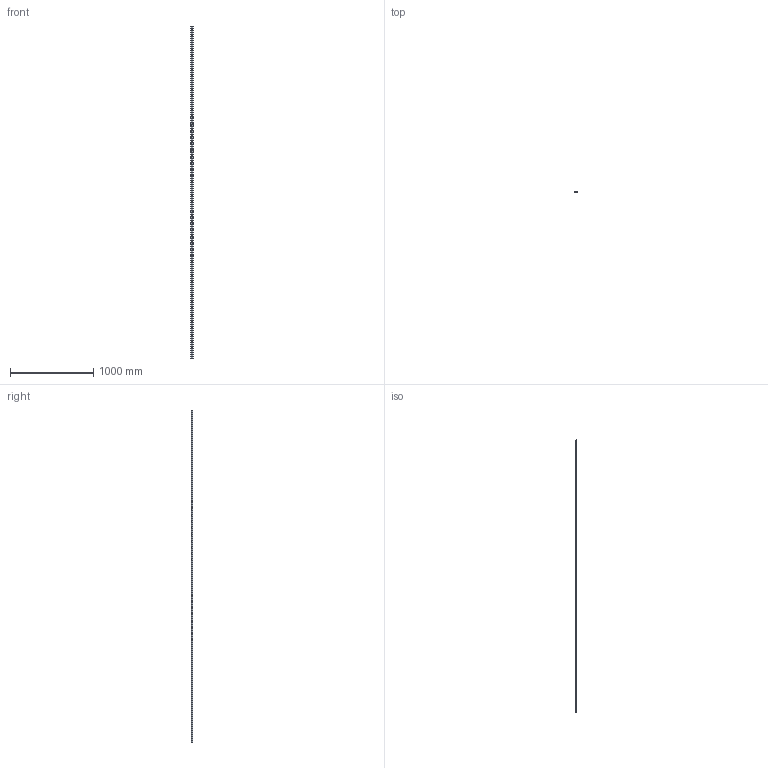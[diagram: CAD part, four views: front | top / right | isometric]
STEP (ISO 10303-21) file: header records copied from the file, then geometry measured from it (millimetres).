
FILE_DESCRIPTION(('STEP AP214'),'1');
FILE_NAME('rail_tex26-4000.stp','2019-03-08T08:29:57',('TraceParts'),('TraceParts S.A.'),'Spatial InterOp 3D',' ',' ');
FILE_SCHEMA(('automotive_design'));
Length unit declared in the file: millimetre
Products named in the file (1): rail_tex26-4000
Bounding box: 26.06 x 14 x 4000 mm (x, y, z)
Volume: 414095.5 mm3; surface area: 352543.5 mm2
Topology: 1 solids, 1 shells, 867 faces, 2244 edges, 1496 vertices
Faces by surface type: plane 612, bspline 143, cylinder 112
Entity records: 55233 total; most frequent: CARTESIAN_POINT 27579, ORIENTED_EDGE 4488, DIRECTION 3632, EDGE_CURVE 2244, LINE 1734, VECTOR 1734, VERTEX_POINT 1496, EDGE_LOOP 1084
